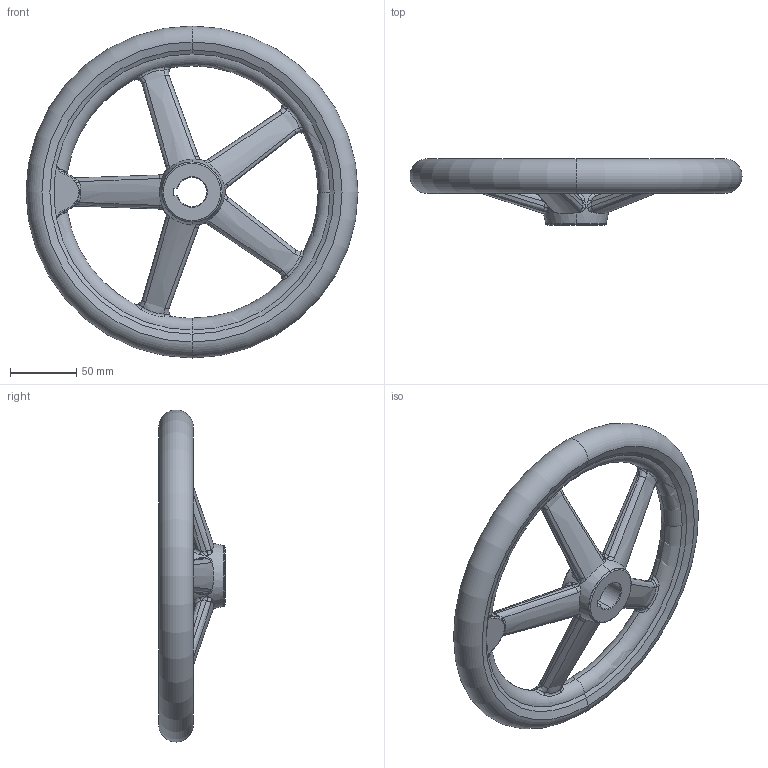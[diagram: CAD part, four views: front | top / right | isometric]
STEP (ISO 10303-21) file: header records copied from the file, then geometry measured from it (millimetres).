
FILE_DESCRIPTION (( 'STEP AP203' ), '1' );
FILE_NAME ('din950_a3_250x22.step', '2010-03-23T09:50:12', ( '_' ), ( '_' ), 'SwSTEP 2.0', 'SolidWorks 2010', '' );
FILE_SCHEMA (( 'CONFIG_CONTROL_DESIGN' ));
Length unit declared in the file: millimetre
Products named in the file (1): din950_a3_250x22
Bounding box: 250 x 50 x 250 mm (x, y, z)
Volume: 536590.8 mm3; surface area: 89564.1 mm2
Topology: 1 solids, 1 shells, 254 faces, 621 edges, 340 vertices
Faces by surface type: bspline 176, torus 19, cone 18, plane 17, sphere 16, cylinder 8
Entity records: 37071 total; most frequent: CARTESIAN_POINT 32240, ORIENTED_EDGE 1198, DIRECTION 648, EDGE_CURVE 599, VERTEX_POINT 340, B_SPLINE_CURVE_WITH_KNOTS 338, AXIS2_PLACEMENT_3D 308, EDGE_LOOP 259
